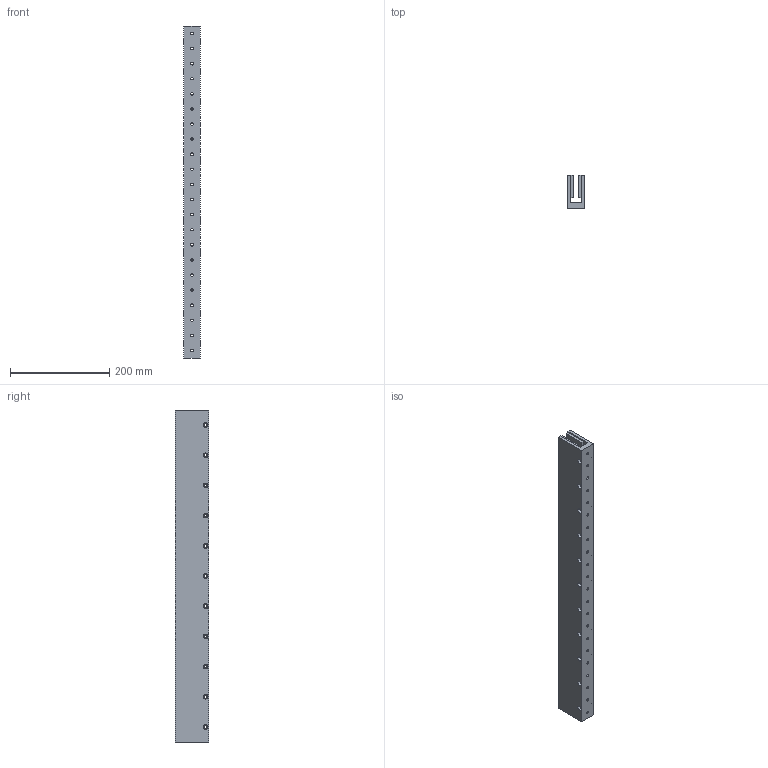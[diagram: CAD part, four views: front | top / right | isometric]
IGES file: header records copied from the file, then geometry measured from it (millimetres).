
Global section: file name: No Iges File Name specified; native system: Autodesk Inventor 2012; preprocessor: AutoDesk Inventor Iges Exporter R2012; author: je17857; date: 20120511.155313; units: inch
Bounding box: 34.29 x 67.31 x 670.31 mm (x, y, z)
Volume: 988154.1 mm3; surface area: 258974.8 mm2
Topology: 1 solids, 1 shells, 329 faces, 761 edges, 511 vertices
Faces by surface type: plane 263, revolution 66
